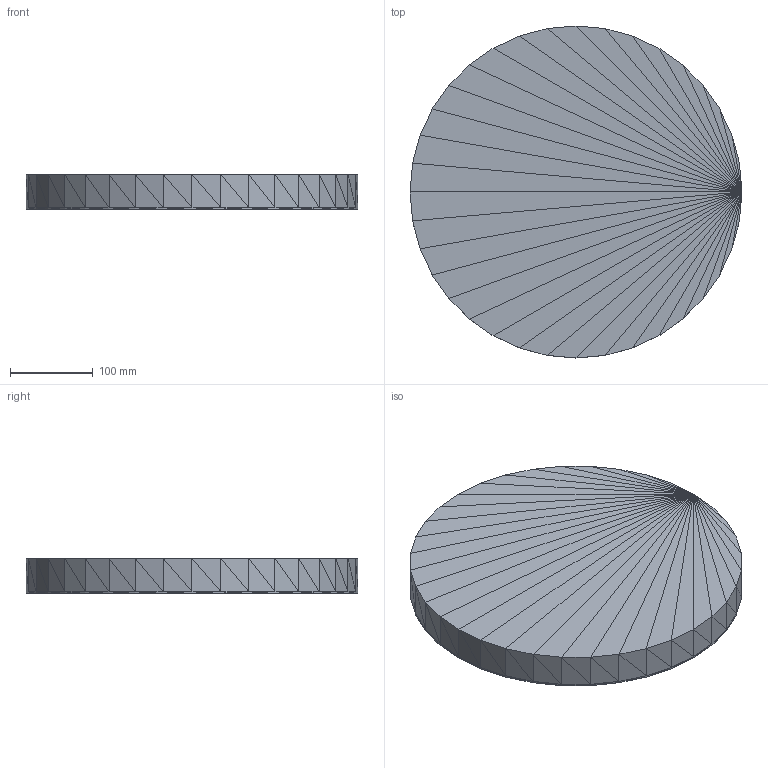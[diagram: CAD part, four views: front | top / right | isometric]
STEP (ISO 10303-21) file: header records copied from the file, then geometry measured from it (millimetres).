
FILE_DESCRIPTION(('ISINAC STEP AP214'),'2;1');
FILE_NAME('ISINAC_CIR.400_40mm_IMANTADA','2026-05-03T10:49:19',('ISINAC'),('www.isinac.com'),'ISINAC BIM Generator 1.0','','');
FILE_SCHEMA(('AUTOMOTIVE_DESIGN'));
Length unit declared in the file: millimetre
Products named in the file (1): ISINAC_CIR.400_40mm_IMANTADA
Bounding box: 400 x 400 x 42 mm (x, y, z)
Surface area: 552818.6 mm2 (no closed solid volume)
Topology: 0 solids, 280 shells, 280 faces, 840 edges, 840 vertices
Faces by surface type: plane 280
Entity records: 3093 total; most frequent: CARTESIAN_POINT 1120, DIRECTION 560, POLY_LOOP 280, FACE_OUTER_BOUND 280, AXIS2_PLACEMENT_3D 280, PLANE 280, FACE_SURFACE 280, CLOSED_SHELL 1
